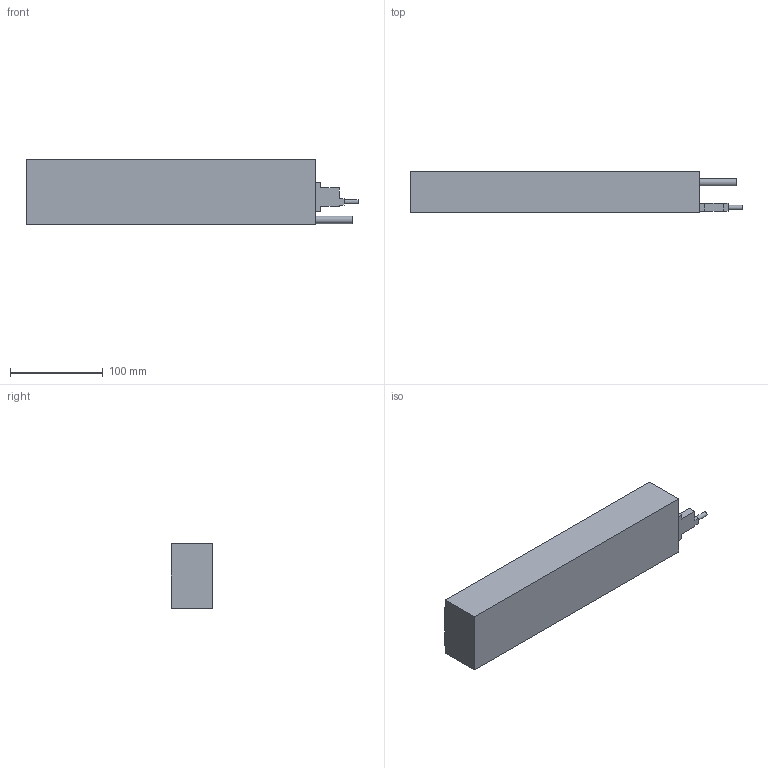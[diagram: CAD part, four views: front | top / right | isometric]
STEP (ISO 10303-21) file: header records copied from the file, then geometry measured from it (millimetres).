
FILE_DESCRIPTION(/* description */ ('STEP AP242 Edition 2','CAx-IF Rec.Pracs.---Representation and Presentation of Product Manufacturing Information (PMI)---4.0---2014-10-13','CAx-IF Rec.Pracs.---3D Tessellated Geometry---0.4---2014-09-14','2;1','CAx-IF Rec.Pracs.---User Defined Attributes---1.5---2016-08-15'),/* implementation_level */ '2;1');
FILE_NAME(/* name */ 'CM50YSM (2)',/* time_stamp */ '2026-04-13T00:46:45Z',/* author */ (''),/* organization */ (''),/* preprocessor_version */ 'ST-DEVELOPER v20',/* originating_system */ 'ONSHAPE BY PTC INC, 1.213',/* authorisation */ ' ');
FILE_SCHEMA (('AP242_MANAGED_MODEL_BASED_3D_ENGINEERING_MIM_LF { 1 0 10303 442 3 1 4 }'));
Length unit declared in the file: metre
Products named in the file (1): CM50YSM
Bounding box: 357.25 x 45 x 70 mm (x, y, z)
Volume: 980172.2 mm3; surface area: 84098.8 mm2
Topology: 1 solids, 2 shells, 88 faces, 216 edges, 137 vertices
Faces by surface type: plane 35, cylinder 31, cone 22
Full cylindrical faces by diameter (mm): 2.5 x2, 3.8 x2, 4.8 x2, 5 x20, 8 x1
Entity records: 2222 total; most frequent: DIRECTION 384, CARTESIAN_POINT 367, ORIENTED_EDGE 286, FACE_BOUND 164, AXIS2_PLACEMENT_3D 152, EDGE_CURVE 143, EDGE_LOOP 142, VERTEX_POINT 135
